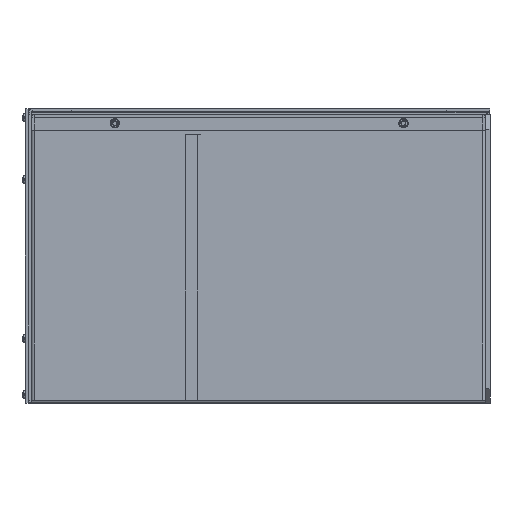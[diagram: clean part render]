
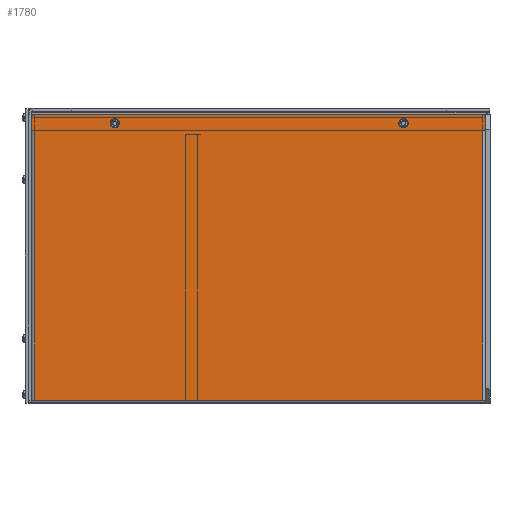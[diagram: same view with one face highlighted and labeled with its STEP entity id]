
A CAD part, left-side view. The second image highlights one B-rep face of the part: STEP entity #1780.
In plain terms, the highlighted planar face has unit normal (-1, 0, 0).
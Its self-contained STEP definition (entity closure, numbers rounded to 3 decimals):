
#1780=ADVANCED_FACE('',(#5239,#5240,#5241),#5242,.F.);
#5239=FACE_OUTER_BOUND('',#9946,.T.);
#5240=FACE_BOUND('',#9947,.T.);
#5241=FACE_BOUND('',#9948,.T.);
#5242=PLANE('',#9949);
#9946=EDGE_LOOP('',(#21118,#21119,#21120,#21121,#21122,#21123,#21124,#21125,#21126,#21127,#21128,#21129));
#9947=EDGE_LOOP('',(#21130,#21131));
#9948=EDGE_LOOP('',(#21132,#21133));
#9949=AXIS2_PLACEMENT_3D('',#21134,#21135,#21136);
#21118=ORIENTED_EDGE('',*,*,#32687,.T.);
#21119=ORIENTED_EDGE('',*,*,#32689,.F.);
#21120=ORIENTED_EDGE('',*,*,#32690,.F.);
#21121=ORIENTED_EDGE('',*,*,#32622,.F.);
#21122=ORIENTED_EDGE('',*,*,#32595,.F.);
#21123=ORIENTED_EDGE('',*,*,#32691,.F.);
#21124=ORIENTED_EDGE('',*,*,#32692,.F.);
#21125=ORIENTED_EDGE('',*,*,#32693,.F.);
#21126=ORIENTED_EDGE('',*,*,#32694,.T.);
#21127=ORIENTED_EDGE('',*,*,#32695,.F.);
#21128=ORIENTED_EDGE('',*,*,#32421,.F.);
#21129=ORIENTED_EDGE('',*,*,#32688,.F.);
#21130=ORIENTED_EDGE('',*,*,#32696,.T.);
#21131=ORIENTED_EDGE('',*,*,#32697,.T.);
#21132=ORIENTED_EDGE('',*,*,#32698,.T.);
#21133=ORIENTED_EDGE('',*,*,#32699,.T.);
#21134=CARTESIAN_POINT('',(-191.462,0.662,-98.));
#21135=DIRECTION('',(1.0,0.0,0.0));
#21136=DIRECTION('',(0.0,1.0,0.0));
#32421=EDGE_CURVE('',#39602,#39604,#39605,.T.);
#32595=EDGE_CURVE('',#39916,#39918,#39919,.T.);
#32622=EDGE_CURVE('',#39918,#39967,#39968,.T.);
#32687=EDGE_CURVE('',#40072,#40070,#40073,.T.);
#32688=EDGE_CURVE('',#40072,#39602,#40074,.T.);
#32689=EDGE_CURVE('',#40075,#40070,#40076,.T.);
#32690=EDGE_CURVE('',#39967,#40075,#40077,.T.);
#32691=EDGE_CURVE('',#40078,#39916,#40079,.T.);
#32692=EDGE_CURVE('',#40080,#40078,#40081,.T.);
#32693=EDGE_CURVE('',#40082,#40080,#40083,.T.);
#32694=EDGE_CURVE('',#40082,#40084,#40085,.T.);
#32695=EDGE_CURVE('',#39604,#40084,#40086,.T.);
#32696=EDGE_CURVE('',#40087,#40088,#40089,.T.);
#32697=EDGE_CURVE('',#40088,#40087,#40090,.T.);
#32698=EDGE_CURVE('',#40091,#40092,#40093,.T.);
#32699=EDGE_CURVE('',#40092,#40091,#40094,.T.);
#39602=VERTEX_POINT('',#51263);
#39604=VERTEX_POINT('',#51266);
#39605=LINE('',#51267,#51268);
#39916=VERTEX_POINT('',#51699);
#39918=VERTEX_POINT('',#51702);
#39919=LINE('',#51703,#51704);
#39967=VERTEX_POINT('',#51772);
#39968=LINE('',#51773,#51774);
#40070=VERTEX_POINT('',#51956);
#40072=VERTEX_POINT('',#51958);
#40073=B_SPLINE_CURVE_WITH_KNOTS('',3,(#51959,#51960,#51961,#51962,#51963,#51964),.UNSPECIFIED.,.F.,.F.,(4,1,1,4),(0.0,0.333,0.667,1.0),.UNSPECIFIED.);
#40074=LINE('',#51965,#51966);
#40075=VERTEX_POINT('',#51967);
#40076=LINE('',#51968,#51969);
#40077=LINE('',#51970,#51971);
#40078=VERTEX_POINT('',#51972);
#40079=LINE('',#51973,#51974);
#40080=VERTEX_POINT('',#51975);
#40081=LINE('',#51976,#51977);
#40082=VERTEX_POINT('',#51978);
#40083=LINE('',#51979,#51980);
#40084=VERTEX_POINT('',#51981);
#40085=B_SPLINE_CURVE_WITH_KNOTS('',3,(#51982,#51983,#51984,#51985,#51986,#51987),.UNSPECIFIED.,.F.,.F.,(4,1,1,4),(0.0,0.333,0.667,1.0),.UNSPECIFIED.);
#40086=LINE('',#51988,#51989);
#40087=VERTEX_POINT('',#51990);
#40088=VERTEX_POINT('',#51991);
#40089=CIRCLE('',#51992,3.25);
#40090=CIRCLE('',#51993,3.25);
#40091=VERTEX_POINT('',#51994);
#40092=VERTEX_POINT('',#51995);
#40093=CIRCLE('',#51996,3.25);
#40094=CIRCLE('',#51997,3.25);
#51263=CARTESIAN_POINT('',(-191.462,-155.738,-97.9));
#51266=CARTESIAN_POINT('',(-191.462,154.962,-97.9));
#51267=CARTESIAN_POINT('',(-191.462,-155.738,-97.9));
#51268=VECTOR('',#64537,310.7);
#51699=CARTESIAN_POINT('',(-191.462,157.062,100.));
#51702=CARTESIAN_POINT('',(-191.462,-157.838,100.));
#51703=CARTESIAN_POINT('',(-191.462,157.062,100.));
#51704=VECTOR('',#64852,314.9);
#51772=CARTESIAN_POINT('',(-191.462,-157.838,89.2));
#51773=CARTESIAN_POINT('',(-191.462,-157.838,100.));
#51774=VECTOR('',#64891,10.8);
#51956=CARTESIAN_POINT('',(-191.461,-155.838,89.));
#51958=CARTESIAN_POINT('',(-191.462,-155.738,89.));
#51959=CARTESIAN_POINT('',(-191.462,-155.738,89.));
#51960=CARTESIAN_POINT('',(-191.462,-155.749,89.));
#51961=CARTESIAN_POINT('',(-191.462,-155.771,89.));
#51962=CARTESIAN_POINT('',(-191.462,-155.804,89.));
#51963=CARTESIAN_POINT('',(-191.461,-155.827,89.));
#51964=CARTESIAN_POINT('',(-191.461,-155.838,89.));
#51965=CARTESIAN_POINT('',(-191.462,-155.738,89.));
#51966=VECTOR('',#64983,186.9);
#51967=CARTESIAN_POINT('',(-191.462,-155.838,89.2));
#51968=CARTESIAN_POINT('',(-191.462,-155.838,89.2));
#51969=VECTOR('',#64984,0.2);
#51970=CARTESIAN_POINT('',(-191.462,-157.838,89.2));
#51971=VECTOR('',#64985,2.0);
#51972=CARTESIAN_POINT('',(-191.462,157.062,89.2));
#51973=CARTESIAN_POINT('',(-191.462,157.062,89.2));
#51974=VECTOR('',#64986,10.8);
#51975=CARTESIAN_POINT('',(-191.462,155.062,89.2));
#51976=CARTESIAN_POINT('',(-191.462,155.062,89.2));
#51977=VECTOR('',#64987,2.0);
#51978=CARTESIAN_POINT('',(-191.461,155.062,89.));
#51979=CARTESIAN_POINT('',(-191.461,155.062,89.));
#51980=VECTOR('',#64988,0.2);
#51981=CARTESIAN_POINT('',(-191.462,154.962,89.));
#51982=CARTESIAN_POINT('',(-191.461,155.062,89.));
#51983=CARTESIAN_POINT('',(-191.461,155.051,89.));
#51984=CARTESIAN_POINT('',(-191.462,155.029,89.));
#51985=CARTESIAN_POINT('',(-191.462,154.996,89.));
#51986=CARTESIAN_POINT('',(-191.462,154.973,89.));
#51987=CARTESIAN_POINT('',(-191.462,154.962,89.));
#51988=CARTESIAN_POINT('',(-191.462,154.962,-97.9));
#51989=VECTOR('',#64989,186.9);
#51990=CARTESIAN_POINT('',(-191.462,99.162,90.75));
#51991=CARTESIAN_POINT('',(-191.462,99.162,97.25));
#51992=AXIS2_PLACEMENT_3D('',#64990,#64991,#64992);
#51993=AXIS2_PLACEMENT_3D('',#64993,#64994,#64995);
#51994=CARTESIAN_POINT('',(-191.462,-100.838,90.75));
#51995=CARTESIAN_POINT('',(-191.462,-100.838,97.25));
#51996=AXIS2_PLACEMENT_3D('',#64996,#64997,#64998);
#51997=AXIS2_PLACEMENT_3D('',#64999,#65000,#65001);
#64537=DIRECTION('',(0.0,1.0,0.0));
#64852=DIRECTION('',(0.0,-1.0,0.0));
#64891=DIRECTION('',(0.0,0.0,-1.0));
#64983=DIRECTION('',(0.0,0.0,-1.0));
#64984=DIRECTION('',(0.006,0.0,-1.));
#64985=DIRECTION('',(0.,1.0,0.0));
#64986=DIRECTION('',(0.0,0.0,1.0));
#64987=DIRECTION('',(0.,1.0,0.0));
#64988=DIRECTION('',(-0.006,0.0,1.));
#64989=DIRECTION('',(0.0,0.0,1.0));
#64990=CARTESIAN_POINT('',(-191.462,99.162,94.));
#64991=DIRECTION('',(1.0,0.0,0.));
#64992=DIRECTION('',(0.,0.0,-1.0));
#64993=CARTESIAN_POINT('',(-191.462,99.162,94.));
#64994=DIRECTION('',(1.0,0.0,0.));
#64995=DIRECTION('',(0.,0.0,1.0));
#64996=CARTESIAN_POINT('',(-191.462,-100.838,94.));
#64997=DIRECTION('',(1.0,0.0,0.));
#64998=DIRECTION('',(0.,0.0,-1.0));
#64999=CARTESIAN_POINT('',(-191.462,-100.838,94.));
#65000=DIRECTION('',(1.0,0.0,0.));
#65001=DIRECTION('',(0.,0.0,1.0));
